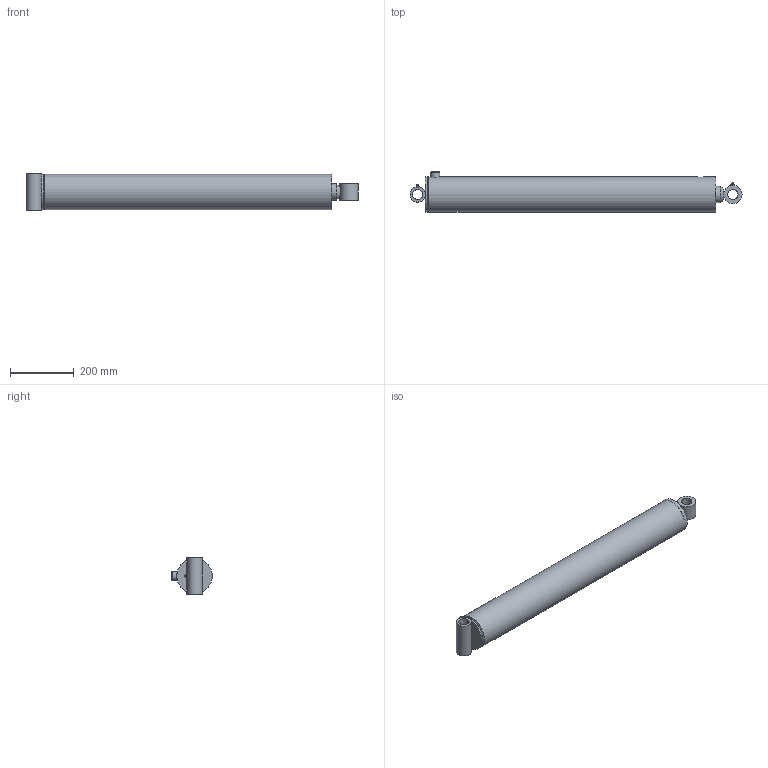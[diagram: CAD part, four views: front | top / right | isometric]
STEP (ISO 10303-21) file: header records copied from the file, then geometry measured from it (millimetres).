
FILE_DESCRIPTION((''),'2;1');
FILE_NAME('\\SRVR-ENG\EngSales\PMC-5630.stp','2012-09-06T14:38:16',('KneiflD'),(''),'Autodesk Inventor 2012','Autodesk Inventor 2012','');
FILE_SCHEMA(('AUTOMOTIVE_DESIGN { 1 0 10303 214 1 1 1 1 }'));
Length unit declared in the file: inch
Products named in the file (23): PMC-5630V; 061900040V; 051900062V; 161900081V; 200014404V; 210600086V; 021100304V; 011100874V; 210600347V; 071900019; 081900451V; 220000212; 240004008V; 240034342V; 240000342V; 240000026V; 240061342V; 240020009V; 230001400V; 200018003V; 270010002V; 270010020V; 250001329V
Assembly tree (25 placements, depth 3):
  PMC-5630V
    061900040V
      051900062V
      161900081V
      200014404V
      210600086V
    021100304V
      011100874V
      210600347V
    071900019
    081900451V
    220000212
    240004008V
    240034342V  x2
    240000342V  x2
    240000026V
    240061342V
    240020009V
    230001400V
    200018003V  x2
    270010002V
    270010020V
    250001329V
Bounding box: 1042.99 x 127 x 114.3 mm (x, y, z)
Volume: 4220191.4 mm3; surface area: 974376.2 mm2
Topology: 23 solids, 23 shells, 258 faces, 529 edges, 321 vertices
Faces by surface type: plane 114, cylinder 65, cone 39, torus 35, bspline 3, sphere 2
Full cylindrical faces by diameter (mm): 1.524 x2, 3.175 x2, 6.074 x1, 8.839 x2, 9.08 x1, 12.7 x1, 17.463 x1, 17.475 x1, 23.813 x1, 28.575 x1, 29.464 x1, 31.699 x1, 31.826 x1, 32.258 x1, 32.385 x1, 34.315 x1, 47.625 x1, 50.8 x2, 50.876 x2, 51.752 x1, 54.61 x1, 57.15 x1, 58.725 x2, 59.373 x1, 60.325 x1, 60.452 x1, 63.5 x1, 80.95 x1, 91.592 x1, 92.151 x1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
Entity records: 6719 total; most frequent: CARTESIAN_POINT 1546, DIRECTION 1047, ORIENTED_EDGE 684, AXIS2_PLACEMENT_3D 478, EDGE_LOOP 408, EDGE_CURVE 342, VERTEX_POINT 276, FACE_OUTER_BOUND 236
